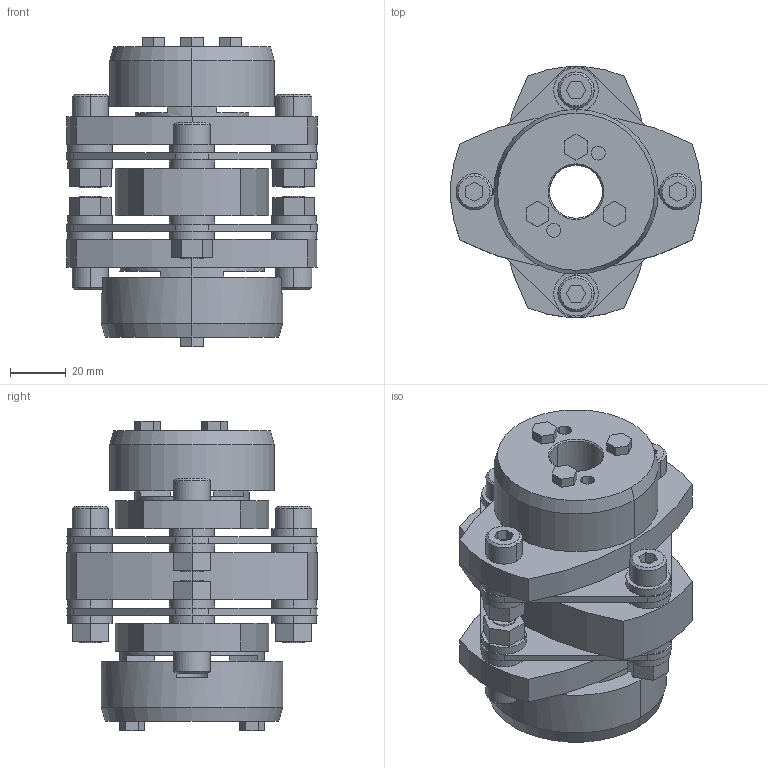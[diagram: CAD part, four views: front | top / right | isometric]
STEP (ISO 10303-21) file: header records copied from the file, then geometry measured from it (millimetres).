
FILE_DESCRIPTION((''),'2;1');
FILE_NAME('LCD-90T7-19×30.stp','2011-09-12T08:24:32',(''),(''),'AutoCAD STEP 2000i','AutoCAD 2000i',', , ');
FILE_SCHEMA(('CONFIG_CONTROL_DESIGN'));
Length unit declared in the file: millimetre
Products named in the file (7): LCD-90T7-19×30; 忣兜1; LC90T7-T030; LC90T7-T025; LC90T7-T019-1; LC90T7-T019; LCD90-ITA
Assembly tree (6 placements, depth 2):
  LCD-90T7-19×30
    忣兜1
    LC90T7-T030
    LC90T7-T025
    LC90T7-T019-1
    LC90T7-T019
    LCD90-ITA
Bounding box: 90 x 89.94 x 111 mm (x, y, z)
Volume: 278386.2 mm3; surface area: 74734.3 mm2
Topology: 1 solids, 1 shells, 317 faces, 774 edges, 508 vertices
Faces by surface type: plane 171, cylinder 122, cone 24
Entity records: 9595 total; most frequent: DIRECTION 1710, CARTESIAN_POINT 1606, ORIENTED_EDGE 1548, EDGE_CURVE 774, AXIS2_PLACEMENT_3D 612, VERTEX_POINT 508, VECTOR 486, LINE 486
